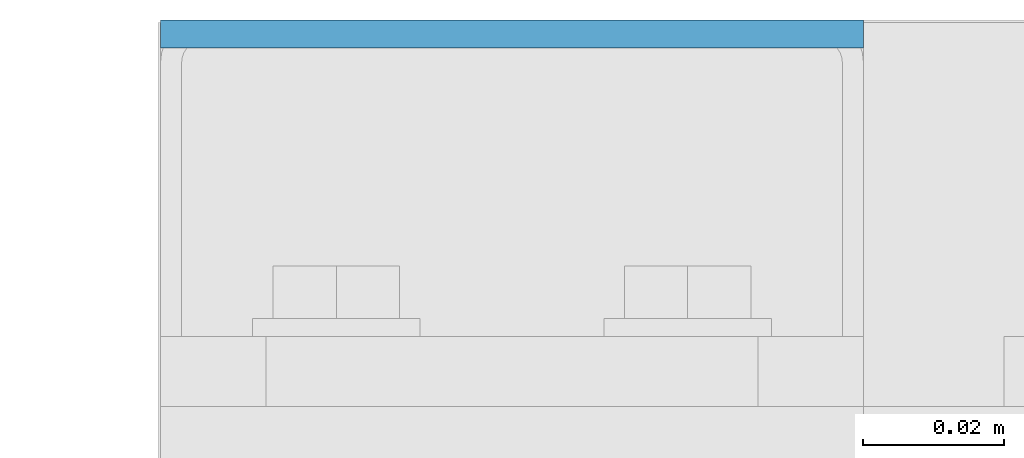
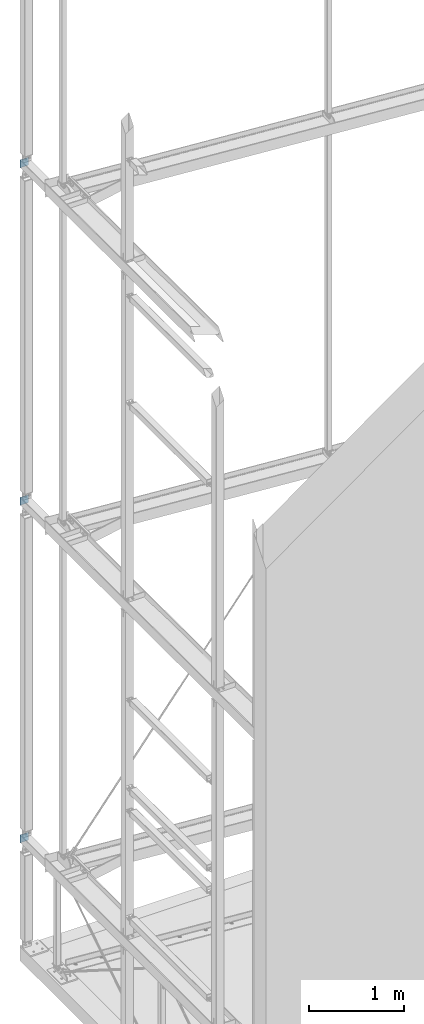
# One storey, part 77 of 271: 3 beams, 3 elements without a shape of their own.
"""IFC2X3 building model written with IfcOpenShell, lengths in millimetres."""

from ifc_helpers import new_model, si_unit, frame, origin_with_axes, origin_2d_with_axis, place, context, subcontext, project, spatial, rectangle, extrude, material, type_object, element, aggregate, save


model = new_model("IFC2X3")

# Units and contexts
model_context = context("Model", 3, precision=1e-05, world=origin_with_axes())
body_context = subcontext(model_context, "Body", "Model", "MODEL_VIEW")
ifc_project = project(units=[si_unit("LENGTHUNIT", "METRE", prefix="MILLI"), si_unit("AREAUNIT", "SQUARE_METRE"), si_unit("VOLUMEUNIT", "CUBIC_METRE"), si_unit("MASSUNIT", "GRAM", prefix="KILO"), si_unit("TIMEUNIT", "SECOND"), si_unit("PLANEANGLEUNIT", "RADIAN"), si_unit("SOLIDANGLEUNIT", "STERADIAN"), si_unit("THERMODYNAMICTEMPERATUREUNIT", "DEGREE_CELSIUS"), si_unit("LUMINOUSINTENSITYUNIT", "LUMEN")], contexts=[model_context])

# Site, building, storey
site_placement = place(None, origin_with_axes())
site = spatial("IfcSite", under=ifc_project, at=site_placement, Name="Undefined", CompositionType="ELEMENT")
building_placement = place(site_placement, origin_with_axes())
building = spatial("IfcBuilding", under=site, at=building_placement, Name="Undefined", CompositionType="ELEMENT")
storey_placement = place(building_placement, origin_with_axes())
storey = spatial("IfcBuildingStorey", under=building, at=storey_placement, Name="Undefined", CompositionType="ELEMENT", Elevation=0.0)

# Assembly, beam
assembly_1_placement = place(storey_placement, origin_with_axes())
assembly_1 = element("IfcElementAssembly", 1, at=assembly_1_placement, inside=storey, AssemblyPlace="NOTDEFINED", PredefinedType="RIGID_FRAME")
ifc_material = material(Name="STEEL/S355JR")
beam_type = type_object("IfcBeamType", Name="BL4*100", PredefinedType="NOTDEFINED")
beam_1_placement = place(assembly_1_placement, frame((88.3756870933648, 4957.32498425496, 1364.34999990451), z_axis=(0.0, 0.0, -1.0), x_axis=(-1.0, 0.0, 1.38777878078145e-17)))
beam_1 = element("IfcBeam", 2, at=beam_1_placement, type_object=beam_type, material=ifc_material, Name="BLACHA", ObjectType="BL4*100", context=body_context, shape_type="SweptSolid", body=[
    extrude(rectangle(XDim=4.0, YDim=100.0, at=origin_2d_with_axis()), frame((100.0, 0.0, 0.0), z_axis=(-1.0, 0.0, 1.38777878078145e-17), x_axis=(0.0, -1.0, 0.0)), (0.0, 0.0, 1.0), 100.0),
])
aggregate(assembly_1, [beam_1])

assembly_2_placement = place(storey_placement, origin_with_axes())
assembly_2 = element("IfcElementAssembly", 3, at=assembly_2_placement, inside=storey, AssemblyPlace="NOTDEFINED", PredefinedType="RIGID_FRAME")
beam_2_placement = place(assembly_2_placement, frame((88.3756870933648, 4957.32498425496, 5684.34999990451), z_axis=(0.0, 0.0, -1.0), x_axis=(-1.0, 0.0, 1.38777878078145e-17)))
beam_2 = element("IfcBeam", 4, at=beam_2_placement, type_object=beam_type, material=ifc_material, Name="BLACHA", ObjectType="BL4*100", context=body_context, shape_type="SweptSolid", body=[
    extrude(rectangle(XDim=4.0, YDim=100.0, at=origin_2d_with_axis()), frame((100.0, 0.0, 0.0), z_axis=(-1.0, 0.0, 1.38777878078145e-17), x_axis=(0.0, -1.0, 0.0)), (0.0, 0.0, 1.0), 100.0),
])
aggregate(assembly_2, [beam_2])

assembly_3_placement = place(storey_placement, origin_with_axes())
assembly_3 = element("IfcElementAssembly", 5, at=assembly_3_placement, inside=storey, AssemblyPlace="NOTDEFINED", PredefinedType="RIGID_FRAME")
beam_3_placement = place(assembly_3_placement, frame((88.3756870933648, 4957.32498425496, 10004.3499999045), z_axis=(0.0, 0.0, -1.0), x_axis=(-1.0, 0.0, 1.38777878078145e-17)))
beam_3 = element("IfcBeam", 6, at=beam_3_placement, type_object=beam_type, material=ifc_material, Name="BLACHA", ObjectType="BL4*100", context=body_context, shape_type="SweptSolid", body=[
    extrude(rectangle(XDim=4.0, YDim=100.0, at=origin_2d_with_axis()), frame((100.0, 0.0, 0.0), z_axis=(-1.0, 0.0, 1.38777878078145e-17), x_axis=(0.0, -1.0, 0.0)), (0.0, 0.0, 1.0), 100.0),
])
aggregate(assembly_3, [beam_3])

save(model, "model.ifc")
